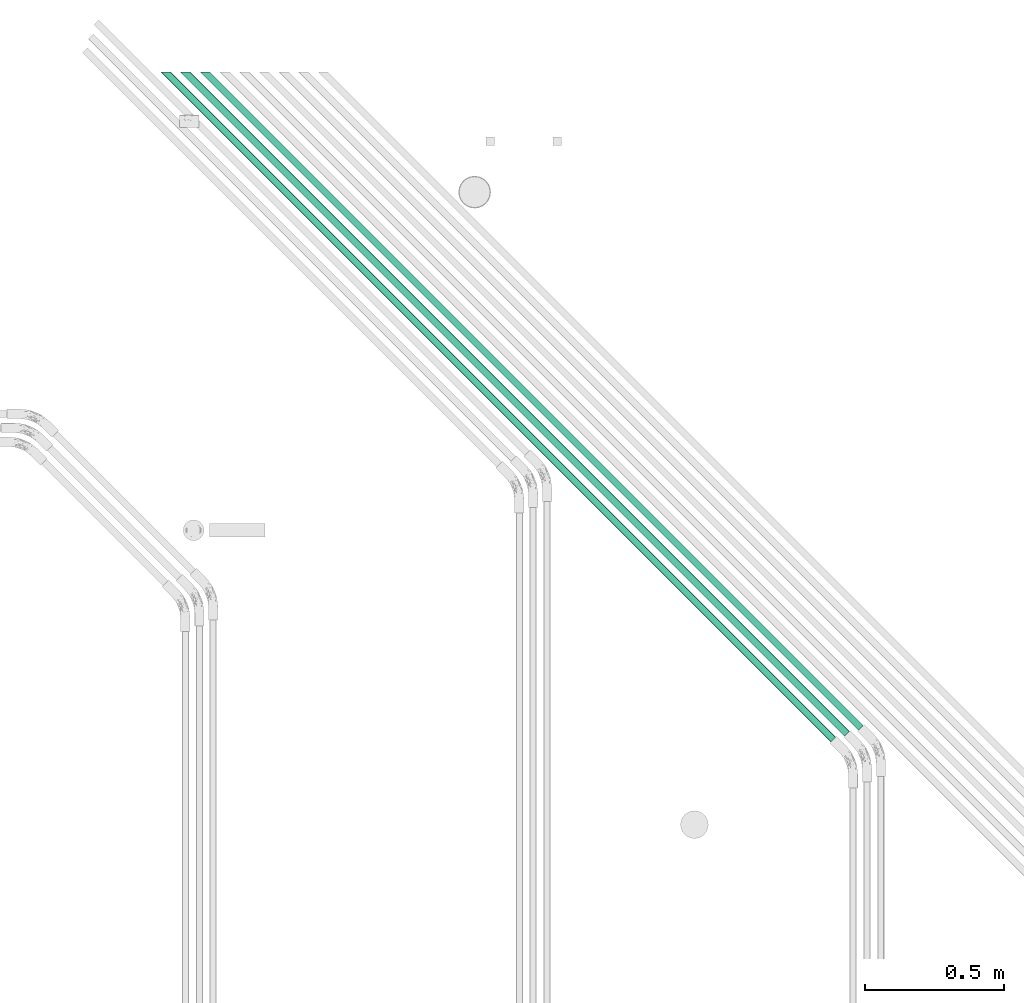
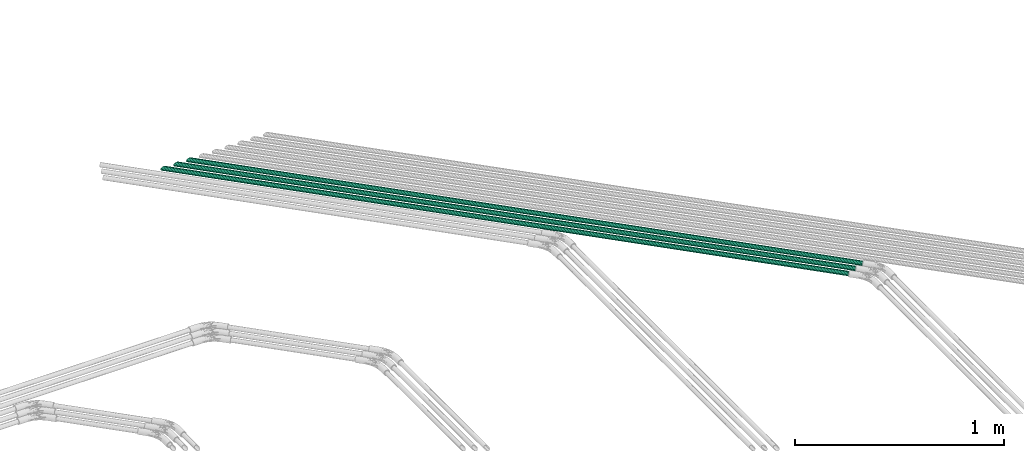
# One storey, part 43 of 51: 3 flow segments.
"""IFC2X3 building model written with IfcOpenShell, lengths in millimetres."""

from ifc_helpers import new_model, entity, si_unit, converted_unit, derived_unit, direction, frame, place, context, subcontext, project, spatial, faceted_brep, type_object, element, save


model = new_model("IFC2X3")

# Units and contexts
model_context = context("Model", 3, precision=0.01, world=frame((0.0, 4.29681676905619e-09, 0.0)), true_north=direction((4.01073788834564e-13, 1.0)))
plan_context = context("Plan", 3, precision=0.01, world=frame((0.0, 4.29681676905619e-09, 0.0)), true_north=direction((4.01073788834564e-13, 1.0)))
body_context = subcontext(model_context, "Body", "Model", "MODEL_VIEW")
ifc_project = project(units=[converted_unit("PLANEANGLEUNIT", "DEGREE", entity("IfcPositiveLengthMeasure", 0.0174532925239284), si_unit("PLANEANGLEUNIT", "RADIAN"), dimensions=[0, 0, 0, 0, 0, 0, 0]), si_unit("AREAUNIT", "SQUARE_METRE"), si_unit("LENGTHUNIT", "METRE", prefix="MILLI"), si_unit("MASSUNIT", "GRAM", prefix="KILO"), si_unit("POWERUNIT", "WATT"), si_unit("PRESSUREUNIT", "PASCAL"), si_unit("FORCEUNIT", "NEWTON", prefix="KILO"), si_unit("ELECTRICVOLTAGEUNIT", "VOLT"), si_unit("ELECTRICCURRENTUNIT", "AMPERE"), si_unit("THERMODYNAMICTEMPERATUREUNIT", "DEGREE_CELSIUS"), si_unit("TIMEUNIT", "SECOND"), si_unit("VOLUMEUNIT", "CUBIC_METRE"), derived_unit("LINEARVELOCITYUNIT", [(si_unit("LENGTHUNIT", "METRE"), 1), (si_unit("TIMEUNIT", "SECOND"), -1)]), derived_unit("VOLUMETRICFLOWRATEUNIT", [(si_unit("VOLUMEUNIT", "CUBIC_METRE"), 1), (si_unit("TIMEUNIT", "SECOND"), -1)]), derived_unit("THERMALTRANSMITTANCEUNIT", [(si_unit("POWERUNIT", "WATT"), 1), (si_unit("THERMODYNAMICTEMPERATUREUNIT", "KELVIN"), -1), (si_unit("AREAUNIT", "SQUARE_METRE"), -1)]), derived_unit("SOUNDPRESSUREUNIT", [(si_unit("PRESSUREUNIT", "PASCAL"), 1)])], contexts=[model_context, plan_context])

# Site, building, storey
site_placement = place(None, frame((0.0, -4.29681676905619e-09, 0.0), z_axis=(0.0, 0.0, 1.0), x_axis=(1.0, 0.0, 0.0)))
site = spatial("IfcSite", under=ifc_project, at=site_placement, Name="ENGM", CompositionType="ELEMENT")
building_placement = place(site_placement, frame((0.0, 4.29681676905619e-09, 0.0), z_axis=(0.0, 0.0, 1.0), x_axis=(1.0, 0.0, 0.0)))
building = spatial("IfcBuilding", under=site, at=building_placement, Name="TI", CompositionType="ELEMENT")
storey_placement = place(building_placement, frame((0.0, 0.0, 210900.0), z_axis=(0.0, 0.0, 1.0), x_axis=(1.0, 0.0, 0.0)))
storey = spatial("IfcBuildingStorey", under=building, at=storey_placement, Name="Nivå F", CompositionType="ELEMENT", Elevation=210900.0)

# Flow segments
cable_carrier_segment_type = type_object("IfcCableCarrierSegmentType", Name="Trekkerør, korrugert", PredefinedType="CONDUITSEGMENT")
flow_segment_1_placement = place(storey_placement, frame((608752.53125, 697117.43931, -56.7999999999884), z_axis=(0.0, 0.0, 1.0), x_axis=(-0.707106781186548, 0.707106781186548, 0.0)))
element("IfcFlowSegment", 1, at=flow_segment_1_placement, inside=storey, type_object=cable_carrier_segment_type, Name="Trekkerør, korrugert", context=body_context, shape_type="Brep", body=[
    faceted_brep([(3345.3014086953, 10.5, 0.0), (3345.14189010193, 10.3404814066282, -1.82330586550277), (0.0, 10.3404814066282, -1.82330586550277), (0.0, 10.5, 0.0), (3344.66818121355, 9.86677251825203, -3.59121150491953), (0.0, 9.86677251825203, -3.59121150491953), (3343.89467543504, 9.0932667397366, -5.25), (0.0, 9.0932667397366, -5.25), (3342.84487534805, 8.04346665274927, -6.74926990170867), (0.0, 8.04346665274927, -6.74926990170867), (3341.55067859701, 6.74926990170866, -8.04346665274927), (0.0, 6.74926990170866, -8.04346665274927), (3340.0514086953, 5.25, -9.09326673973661), (0.0, 5.25, -9.09326673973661), (3338.39262020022, 3.59121150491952, -9.86677251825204), (0.0, 3.59121150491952, -9.86677251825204), (3336.62471456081, 1.82330586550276, -10.3404814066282), (0.0, 1.82330586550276, -10.3404814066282), (3334.8014086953, -1.92881870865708e-15, -10.5), (0.0, -1.92881870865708e-15, -10.5), (3332.9781028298, -1.82330586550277, -10.3404814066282), (0.0, -1.82330586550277, -10.3404814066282), (3331.21019719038, -3.59121150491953, -9.86677251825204), (0.0, -3.59121150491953, -9.86677251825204), (3329.5514086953, -5.25000000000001, -9.0932667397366), (0.0, -5.25, -9.0932667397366), (3328.05213879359, -6.74926990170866, -8.04346665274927), (0.0, -6.74926990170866, -8.04346665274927), (3326.75794204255, -8.04346665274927, -6.74926990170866), (0.0, -8.04346665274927, -6.74926990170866), (3325.70814195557, -9.09326673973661, -5.25), (0.0, -9.09326673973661, -5.25), (3324.93463617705, -9.86677251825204, -3.59121150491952), (0.0, -9.86677251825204, -3.59121150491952), (3324.46092728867, -10.3404814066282, -1.82330586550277), (0.0, -10.3404814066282, -1.82330586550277), (3324.3014086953, -10.5, 1.28587913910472e-15), (0.0, -10.5, 1.28587913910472e-15), (3324.46092728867, -10.3404814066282, 1.82330586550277), (0.0, -10.3404814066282, 1.82330586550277), (3324.93463617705, -9.86677251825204, 3.59121150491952), (0.0, -9.86677251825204, 3.59121150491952), (3325.70814195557, -9.09326673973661, 5.25), (0.0, -9.09326673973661, 5.25), (3326.75794204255, -8.04346665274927, 6.74926990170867), (0.0, -8.04346665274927, 6.74926990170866), (3328.05213879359, -6.74926990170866, 8.04346665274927), (0.0, -6.74926990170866, 8.04346665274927), (3329.5514086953, -5.25, 9.09326673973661), (0.0, -5.25, 9.09326673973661), (3331.21019719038, -3.59121150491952, 9.86677251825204), (0.0, -3.59121150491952, 9.86677251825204), (3332.9781028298, -1.82330586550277, 10.3404814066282), (0.0, -1.82330586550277, 10.3404814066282), (3334.8014086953, 6.4293956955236e-16, 10.5), (0.0, 6.4293956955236e-16, 10.5), (3336.6247145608, 1.82330586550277, 10.3404814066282), (0.0, 1.82330586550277, 10.3404814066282), (3338.39262020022, 3.59121150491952, 9.86677251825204), (0.0, 3.59121150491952, 9.86677251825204), (3340.0514086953, 5.25, 9.09326673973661), (0.0, 5.25, 9.09326673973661), (3341.55067859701, 6.74926990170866, 8.04346665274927), (0.0, 6.74926990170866, 8.04346665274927), (3342.84487534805, 8.04346665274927, 6.74926990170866), (0.0, 8.04346665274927, 6.74926990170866), (3343.89467543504, 9.09326673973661, 5.25), (0.0, 9.09326673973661, 5.25), (3344.66818121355, 9.86677251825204, 3.59121150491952), (0.0, 9.86677251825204, 3.59121150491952), (3345.14189010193, 10.3404814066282, 1.82330586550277), (0.0, 10.3404814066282, 1.82330586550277), (3347.11150560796, 12.3100969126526, -2.17060222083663), (3347.3014086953, 12.5, 0.0), (0.0, 12.5, 0.0), (0.0, 12.3100969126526, -2.17060222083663), (3347.11150560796, 12.3100969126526, 2.17060222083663), (0.0, 12.3100969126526, 2.17060222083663), (3346.54756645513, 11.7461577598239, 4.27525179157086), (0.0, 11.7461577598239, 4.27525179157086), (3345.62672624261, 10.8253175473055, 6.25), (0.0, 10.8253175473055, 6.25), (3344.37696423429, 9.57555553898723, 8.03484512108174), (0.0, 9.57555553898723, 8.03484512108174), (3342.83625381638, 8.03484512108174, 9.57555553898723), (0.0, 8.03484512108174, 9.57555553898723), (3341.0514086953, 6.25, 10.8253175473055), (0.0, 6.25, 10.8253175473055), (3339.07666048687, 4.27525179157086, 11.7461577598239), (0.0, 4.27525179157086, 11.7461577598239), (3336.97201091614, 2.17060222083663, 12.3100969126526), (0.0, 2.17060222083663, 12.3100969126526), (3334.8014086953, 7.65404249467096e-16, 12.5), (0.0, 7.65404249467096e-16, 12.5), (3332.63080647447, -2.17060222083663, 12.3100969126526), (0.0, -2.17060222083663, 12.3100969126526), (3330.52615690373, -4.27525179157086, 11.7461577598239), (0.0, -4.27525179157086, 11.7461577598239), (3328.5514086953, -6.25, 10.8253175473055), (0.0, -6.25, 10.8253175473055), (3326.76656357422, -8.03484512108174, 9.57555553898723), (0.0, -8.03484512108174, 9.57555553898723), (3325.22585315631, -9.57555553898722, 8.03484512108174), (0.0, -9.57555553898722, 8.03484512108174), (3323.976091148, -10.8253175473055, 6.25), (0.0, -10.8253175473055, 6.25), (3323.05525093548, -11.7461577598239, 4.27525179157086), (0.0, -11.7461577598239, 4.27525179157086), (3322.49131178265, -12.3100969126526, 2.17060222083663), (0.0, -12.3100969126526, 2.17060222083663), (3322.3014086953, -12.5, 1.53080849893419e-15), (0.0, -12.5, 1.53080849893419e-15), (3322.49131178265, -12.3100969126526, -2.17060222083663), (0.0, -12.3100969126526, -2.17060222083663), (3323.05525093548, -11.7461577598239, -4.27525179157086), (0.0, -11.7461577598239, -4.27525179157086), (3323.976091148, -10.8253175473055, -6.25), (0.0, -10.8253175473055, -6.25), (3325.22585315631, -9.57555553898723, -8.03484512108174), (0.0, -9.57555553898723, -8.03484512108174), (3326.76656357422, -8.03484512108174, -9.57555553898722), (0.0, -8.03484512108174, -9.57555553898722), (3328.5514086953, -6.25000000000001, -10.8253175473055), (0.0, -6.25000000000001, -10.8253175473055), (3330.52615690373, -4.27525179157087, -11.7461577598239), (0.0, -4.27525179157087, -11.7461577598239), (3332.63080647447, -2.17060222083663, -12.3100969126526), (0.0, -2.17060222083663, -12.3100969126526), (3334.8014086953, -2.29621274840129e-15, -12.5), (0.0, -2.29621274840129e-15, -12.5), (3336.97201091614, 2.17060222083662, -12.3100969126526), (0.0, 2.17060222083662, -12.3100969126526), (3339.07666048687, 4.27525179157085, -11.7461577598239), (0.0, 4.27525179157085, -11.7461577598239), (3341.0514086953, 6.25, -10.8253175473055), (0.0, 6.25, -10.8253175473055), (3342.83625381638, 8.03484512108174, -9.57555553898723), (0.0, 8.03484512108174, -9.57555553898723), (3344.37696423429, 9.57555553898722, -8.03484512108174), (0.0, 9.57555553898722, -8.03484512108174), (3345.62672624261, 10.8253175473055, -6.25000000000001), (0.0, 10.8253175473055, -6.25000000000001), (3346.54756645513, 11.7461577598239, -4.27525179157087), (0.0, 11.7461577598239, -4.27525179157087)], [[[0, 1, 2, 3]], [[1, 4, 5, 2]], [[4, 6, 7, 5]], [[6, 8, 9, 7]], [[8, 10, 11, 9]], [[10, 12, 13, 11]], [[12, 14, 15, 13]], [[14, 16, 17, 15]], [[16, 18, 19, 17]], [[18, 20, 21, 19]], [[20, 22, 23, 21]], [[22, 24, 25, 23]], [[24, 26, 27, 25]], [[26, 28, 29, 27]], [[28, 30, 31, 29]], [[30, 32, 33, 31]], [[32, 34, 35, 33]], [[34, 36, 37, 35]], [[36, 38, 39, 37]], [[38, 40, 41, 39]], [[40, 42, 43, 41]], [[42, 44, 45, 43]], [[44, 46, 47, 45]], [[46, 48, 49, 47]], [[48, 50, 51, 49]], [[50, 52, 53, 51]], [[52, 54, 55, 53]], [[54, 56, 57, 55]], [[56, 58, 59, 57]], [[58, 60, 61, 59]], [[60, 62, 63, 61]], [[62, 64, 65, 63]], [[64, 66, 67, 65]], [[66, 68, 69, 67]], [[68, 70, 71, 69]], [[70, 0, 3, 71]], [[72, 73, 74, 75]], [[73, 76, 77, 74]], [[76, 78, 79, 77]], [[78, 80, 81, 79]], [[80, 82, 83, 81]], [[82, 84, 85, 83]], [[84, 86, 87, 85]], [[86, 88, 89, 87]], [[88, 90, 91, 89]], [[90, 92, 93, 91]], [[92, 94, 95, 93]], [[94, 96, 97, 95]], [[96, 98, 99, 97]], [[98, 100, 101, 99]], [[100, 102, 103, 101]], [[102, 104, 105, 103]], [[104, 106, 107, 105]], [[106, 108, 109, 107]], [[108, 110, 111, 109]], [[110, 112, 113, 111]], [[112, 114, 115, 113]], [[114, 116, 117, 115]], [[116, 118, 119, 117]], [[118, 120, 121, 119]], [[120, 122, 123, 121]], [[122, 124, 125, 123]], [[124, 126, 127, 125]], [[126, 128, 129, 127]], [[128, 130, 131, 129]], [[130, 132, 133, 131]], [[132, 134, 135, 133]], [[134, 136, 137, 135]], [[136, 138, 139, 137]], [[138, 140, 141, 139]], [[140, 142, 143, 141]], [[142, 72, 75, 143]], [[75, 74, 77, 79, 81, 83, 85, 87, 89, 91, 93, 95, 97, 99, 101, 103, 105, 107, 109, 111, 113, 115, 117, 119, 121, 123, 125, 127, 129, 131, 133, 135, 137, 139, 141, 143], [3, 2, 5, 7, 9, 11, 13, 15, 17, 19, 21, 23, 25, 27, 29, 31, 33, 35, 37, 39, 41, 43, 45, 47, 49, 51, 53, 55, 57, 59, 61, 63, 65, 67, 69, 71]], [[142, 140, 138, 136, 134, 132, 130, 128, 126, 124, 122, 120, 118, 116, 114, 112, 110, 108, 106, 104, 102, 100, 98, 96, 94, 92, 90, 88, 86, 84, 82, 80, 78, 76, 73, 72], [70, 68, 66, 64, 62, 60, 58, 56, 54, 52, 50, 48, 46, 44, 42, 40, 38, 36, 34, 32, 30, 28, 26, 24, 22, 20, 18, 16, 14, 12, 10, 8, 6, 4, 1, 0]]], orient=[[False], [False], [False], [False], [False], [False], [False], [False], [False], [False], [False], [False], [False], [False], [False], [False], [False], [False], [False], [False], [False], [False], [False], [False], [False], [False], [False], [False], [False], [False], [False], [False], [False], [False], [False], [False], [False], [False], [False], [False], [False], [False], [False], [False], [False], [False], [False], [False], [False], [False], [False], [False], [False], [False], [False], [False], [False], [False], [False], [False], [False], [False], [False], [False], [False], [False], [False], [False], [False], [False], [False], [False], [False, False], [False, False]]),
])
flow_segment_2_placement = place(storey_placement, frame((608702.53125, 697096.72864, -56.7999999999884), z_axis=(0.0, 0.0, 1.0), x_axis=(-0.707106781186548, 0.707106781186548, 0.0)))
element("IfcFlowSegment", 2, at=flow_segment_2_placement, inside=storey, type_object=cable_carrier_segment_type, Name="Trekkerør, korrugert", context=body_context, shape_type="Brep", body=[
    faceted_brep([(3374.59071909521, 10.5, 0.0), (3374.43120050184, 10.3404814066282, -1.82330586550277), (0.0, 10.3404814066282, -1.82330586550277), (0.0, 10.5, 0.0), (3373.95749161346, 9.86677251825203, -3.59121150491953), (0.0, 9.86677251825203, -3.59121150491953), (3373.18398583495, 9.0932667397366, -5.25), (0.0, 9.0932667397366, -5.25), (3372.13418574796, 8.04346665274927, -6.74926990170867), (0.0, 8.04346665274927, -6.74926990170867), (3370.83998899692, 6.74926990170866, -8.04346665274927), (0.0, 6.74926990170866, -8.04346665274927), (3369.34071909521, 5.25, -9.09326673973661), (0.0, 5.25, -9.09326673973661), (3367.68193060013, 3.59121150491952, -9.86677251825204), (0.0, 3.59121150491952, -9.86677251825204), (3365.91402496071, 1.82330586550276, -10.3404814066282), (0.0, 1.82330586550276, -10.3404814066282), (3364.09071909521, -1.92881870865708e-15, -10.5), (0.0, -1.92881870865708e-15, -10.5), (3362.26741322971, -1.82330586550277, -10.3404814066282), (0.0, -1.82330586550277, -10.3404814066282), (3360.49950759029, -3.59121150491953, -9.86677251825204), (0.0, -3.59121150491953, -9.86677251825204), (3358.84071909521, -5.25, -9.0932667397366), (0.0, -5.25, -9.0932667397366), (3357.3414491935, -6.74926990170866, -8.04346665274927), (0.0, -6.74926990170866, -8.04346665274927), (3356.04725244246, -8.04346665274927, -6.74926990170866), (0.0, -8.04346665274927, -6.74926990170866), (3354.99745235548, -9.09326673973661, -5.25), (0.0, -9.09326673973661, -5.25), (3354.22394657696, -9.86677251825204, -3.59121150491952), (0.0, -9.86677251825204, -3.59121150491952), (3353.75023768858, -10.3404814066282, -1.82330586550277), (0.0, -10.3404814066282, -1.82330586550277), (3353.59071909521, -10.5, 1.28587913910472e-15), (0.0, -10.5, 1.28587913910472e-15), (3353.75023768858, -10.3404814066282, 1.82330586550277), (0.0, -10.3404814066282, 1.82330586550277), (3354.22394657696, -9.86677251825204, 3.59121150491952), (0.0, -9.86677251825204, 3.59121150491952), (3354.99745235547, -9.09326673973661, 5.25), (0.0, -9.09326673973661, 5.25), (3356.04725244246, -8.04346665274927, 6.74926990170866), (0.0, -8.04346665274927, 6.74926990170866), (3357.3414491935, -6.74926990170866, 8.04346665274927), (0.0, -6.74926990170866, 8.04346665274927), (3358.84071909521, -5.25, 9.09326673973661), (0.0, -5.25, 9.09326673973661), (3360.49950759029, -3.59121150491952, 9.86677251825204), (0.0, -3.59121150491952, 9.86677251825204), (3362.26741322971, -1.82330586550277, 10.3404814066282), (0.0, -1.82330586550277, 10.3404814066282), (3364.09071909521, 6.4293956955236e-16, 10.5), (0.0, 6.4293956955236e-16, 10.5), (3365.91402496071, 1.82330586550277, 10.3404814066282), (0.0, 1.82330586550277, 10.3404814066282), (3367.68193060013, 3.59121150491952, 9.86677251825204), (0.0, 3.59121150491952, 9.86677251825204), (3369.34071909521, 5.25, 9.09326673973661), (0.0, 5.25, 9.09326673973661), (3370.83998899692, 6.74926990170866, 8.04346665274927), (0.0, 6.74926990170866, 8.04346665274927), (3372.13418574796, 8.04346665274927, 6.74926990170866), (0.0, 8.04346665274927, 6.74926990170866), (3373.18398583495, 9.09326673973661, 5.25), (0.0, 9.09326673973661, 5.25), (3373.95749161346, 9.86677251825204, 3.59121150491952), (0.0, 9.86677251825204, 3.59121150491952), (3374.43120050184, 10.3404814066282, 1.82330586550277), (0.0, 10.3404814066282, 1.82330586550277), (3376.40081600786, 12.3100969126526, -2.17060222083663), (3376.59071909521, 12.5, 0.0), (0.0, 12.5, 0.0), (0.0, 12.3100969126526, -2.17060222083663), (3376.40081600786, 12.3100969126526, 2.17060222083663), (0.0, 12.3100969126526, 2.17060222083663), (3375.83687685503, 11.7461577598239, 4.27525179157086), (0.0, 11.7461577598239, 4.27525179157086), (3374.91603664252, 10.8253175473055, 6.25), (0.0, 10.8253175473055, 6.25), (3373.6662746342, 9.57555553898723, 8.03484512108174), (0.0, 9.57555553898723, 8.03484512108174), (3372.12556421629, 8.03484512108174, 9.57555553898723), (0.0, 8.03484512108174, 9.57555553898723), (3370.34071909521, 6.25, 10.8253175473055), (0.0, 6.25, 10.8253175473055), (3368.36597088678, 4.27525179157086, 11.7461577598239), (0.0, 4.27525179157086, 11.7461577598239), (3366.26132131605, 2.17060222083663, 12.3100969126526), (0.0, 2.17060222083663, 12.3100969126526), (3364.09071909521, 7.65404249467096e-16, 12.5), (0.0, 7.65404249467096e-16, 12.5), (3361.92011687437, -2.17060222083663, 12.3100969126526), (0.0, -2.17060222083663, 12.3100969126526), (3359.81546730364, -4.27525179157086, 11.7461577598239), (0.0, -4.27525179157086, 11.7461577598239), (3357.84071909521, -6.25, 10.8253175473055), (0.0, -6.25, 10.8253175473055), (3356.05587397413, -8.03484512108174, 9.57555553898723), (0.0, -8.03484512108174, 9.57555553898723), (3354.51516355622, -9.57555553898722, 8.03484512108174), (0.0, -9.57555553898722, 8.03484512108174), (3353.26540154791, -10.8253175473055, 6.25), (0.0, -10.8253175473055, 6.25), (3352.34456133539, -11.7461577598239, 4.27525179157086), (0.0, -11.7461577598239, 4.27525179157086), (3351.78062218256, -12.3100969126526, 2.17060222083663), (0.0, -12.3100969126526, 2.17060222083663), (3351.59071909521, -12.5, 1.53080849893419e-15), (0.0, -12.5, 1.53080849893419e-15), (3351.78062218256, -12.3100969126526, -2.17060222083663), (0.0, -12.3100969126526, -2.17060222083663), (3352.34456133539, -11.7461577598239, -4.27525179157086), (0.0, -11.7461577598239, -4.27525179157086), (3353.26540154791, -10.8253175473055, -6.25), (0.0, -10.8253175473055, -6.25), (3354.51516355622, -9.57555553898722, -8.03484512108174), (0.0, -9.57555553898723, -8.03484512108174), (3356.05587397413, -8.03484512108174, -9.57555553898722), (0.0, -8.03484512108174, -9.57555553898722), (3357.84071909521, -6.25000000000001, -10.8253175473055), (0.0, -6.25000000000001, -10.8253175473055), (3359.81546730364, -4.27525179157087, -11.7461577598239), (0.0, -4.27525179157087, -11.7461577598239), (3361.92011687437, -2.17060222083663, -12.3100969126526), (0.0, -2.17060222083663, -12.3100969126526), (3364.09071909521, -2.29621274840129e-15, -12.5), (0.0, -2.29621274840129e-15, -12.5), (3366.26132131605, 2.17060222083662, -12.3100969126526), (0.0, 2.17060222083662, -12.3100969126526), (3368.36597088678, 4.27525179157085, -11.7461577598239), (0.0, 4.27525179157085, -11.7461577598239), (3370.34071909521, 6.25, -10.8253175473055), (0.0, 6.25, -10.8253175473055), (3372.12556421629, 8.03484512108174, -9.57555553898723), (0.0, 8.03484512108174, -9.57555553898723), (3373.6662746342, 9.57555553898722, -8.03484512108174), (0.0, 9.57555553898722, -8.03484512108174), (3374.91603664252, 10.8253175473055, -6.25000000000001), (0.0, 10.8253175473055, -6.25000000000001), (3375.83687685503, 11.7461577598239, -4.27525179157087), (0.0, 11.7461577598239, -4.27525179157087)], [[[0, 1, 2, 3]], [[1, 4, 5, 2]], [[4, 6, 7, 5]], [[6, 8, 9, 7]], [[8, 10, 11, 9]], [[10, 12, 13, 11]], [[12, 14, 15, 13]], [[14, 16, 17, 15]], [[16, 18, 19, 17]], [[18, 20, 21, 19]], [[20, 22, 23, 21]], [[22, 24, 25, 23]], [[24, 26, 27, 25]], [[26, 28, 29, 27]], [[28, 30, 31, 29]], [[30, 32, 33, 31]], [[32, 34, 35, 33]], [[34, 36, 37, 35]], [[36, 38, 39, 37]], [[38, 40, 41, 39]], [[40, 42, 43, 41]], [[42, 44, 45, 43]], [[44, 46, 47, 45]], [[46, 48, 49, 47]], [[48, 50, 51, 49]], [[50, 52, 53, 51]], [[52, 54, 55, 53]], [[54, 56, 57, 55]], [[56, 58, 59, 57]], [[58, 60, 61, 59]], [[60, 62, 63, 61]], [[62, 64, 65, 63]], [[64, 66, 67, 65]], [[66, 68, 69, 67]], [[68, 70, 71, 69]], [[70, 0, 3, 71]], [[72, 73, 74, 75]], [[73, 76, 77, 74]], [[76, 78, 79, 77]], [[78, 80, 81, 79]], [[80, 82, 83, 81]], [[82, 84, 85, 83]], [[84, 86, 87, 85]], [[86, 88, 89, 87]], [[88, 90, 91, 89]], [[90, 92, 93, 91]], [[92, 94, 95, 93]], [[94, 96, 97, 95]], [[96, 98, 99, 97]], [[98, 100, 101, 99]], [[100, 102, 103, 101]], [[102, 104, 105, 103]], [[104, 106, 107, 105]], [[106, 108, 109, 107]], [[108, 110, 111, 109]], [[110, 112, 113, 111]], [[112, 114, 115, 113]], [[114, 116, 117, 115]], [[116, 118, 119, 117]], [[118, 120, 121, 119]], [[120, 122, 123, 121]], [[122, 124, 125, 123]], [[124, 126, 127, 125]], [[126, 128, 129, 127]], [[128, 130, 131, 129]], [[130, 132, 133, 131]], [[132, 134, 135, 133]], [[134, 136, 137, 135]], [[136, 138, 139, 137]], [[138, 140, 141, 139]], [[140, 142, 143, 141]], [[142, 72, 75, 143]], [[75, 74, 77, 79, 81, 83, 85, 87, 89, 91, 93, 95, 97, 99, 101, 103, 105, 107, 109, 111, 113, 115, 117, 119, 121, 123, 125, 127, 129, 131, 133, 135, 137, 139, 141, 143], [3, 2, 5, 7, 9, 11, 13, 15, 17, 19, 21, 23, 25, 27, 29, 31, 33, 35, 37, 39, 41, 43, 45, 47, 49, 51, 53, 55, 57, 59, 61, 63, 65, 67, 69, 71]], [[142, 140, 138, 136, 134, 132, 130, 128, 126, 124, 122, 120, 118, 116, 114, 112, 110, 108, 106, 104, 102, 100, 98, 96, 94, 92, 90, 88, 86, 84, 82, 80, 78, 76, 73, 72], [70, 68, 66, 64, 62, 60, 58, 56, 54, 52, 50, 48, 46, 44, 42, 40, 38, 36, 34, 32, 30, 28, 26, 24, 22, 20, 18, 16, 14, 12, 10, 8, 6, 4, 1, 0]]], orient=[[False], [False], [False], [False], [False], [False], [False], [False], [False], [False], [False], [False], [False], [False], [False], [False], [False], [False], [False], [False], [False], [False], [False], [False], [False], [False], [False], [False], [False], [False], [False], [False], [False], [False], [False], [False], [False], [False], [False], [False], [False], [False], [False], [False], [False], [False], [False], [False], [False], [False], [False], [False], [False], [False], [False], [False], [False], [False], [False], [False], [False], [False], [False], [False], [False], [False], [False], [False], [False], [False], [False], [False], [False, False], [False, False]]),
])
flow_segment_3_placement = place(storey_placement, frame((608652.53125, 697076.01796, -56.7999999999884), z_axis=(0.0, 0.0, 1.0), x_axis=(-0.707106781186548, 0.707106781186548, 0.0)))
element("IfcFlowSegment", 3, at=flow_segment_3_placement, inside=storey, type_object=cable_carrier_segment_type, Name="Trekkerør, korrugert", context=body_context, shape_type="Brep", body=[
    faceted_brep([(3403.88004363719, 10.5, 0.0), (3403.72052504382, 10.3404814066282, -1.82330586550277), (0.0, 10.3404814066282, -1.82330586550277), (0.0, 10.5, 0.0), (3403.24681615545, 9.86677251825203, -3.59121150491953), (0.0, 9.86677251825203, -3.59121150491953), (3402.47331037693, 9.0932667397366, -5.25), (0.0, 9.0932667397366, -5.25), (3401.42351028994, 8.04346665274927, -6.74926990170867), (0.0, 8.04346665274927, -6.74926990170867), (3400.1293135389, 6.74926990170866, -8.04346665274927), (0.0, 6.74926990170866, -8.04346665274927), (3398.63004363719, 5.25, -9.09326673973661), (0.0, 5.25, -9.09326673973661), (3396.97125514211, 3.59121150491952, -9.86677251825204), (0.0, 3.59121150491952, -9.86677251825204), (3395.2033495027, 1.82330586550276, -10.3404814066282), (0.0, 1.82330586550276, -10.3404814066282), (3393.38004363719, -1.92881870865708e-15, -10.5), (0.0, -1.92881870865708e-15, -10.5), (3391.55673777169, -1.82330586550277, -10.3404814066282), (0.0, -1.82330586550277, -10.3404814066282), (3389.78883213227, -3.59121150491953, -9.86677251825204), (0.0, -3.59121150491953, -9.86677251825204), (3388.13004363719, -5.25, -9.0932667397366), (0.0, -5.25, -9.0932667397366), (3386.63077373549, -6.74926990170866, -8.04346665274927), (0.0, -6.74926990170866, -8.04346665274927), (3385.33657698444, -8.04346665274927, -6.74926990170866), (0.0, -8.04346665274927, -6.74926990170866), (3384.28677689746, -9.09326673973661, -5.25), (0.0, -9.09326673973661, -5.25), (3383.51327111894, -9.86677251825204, -3.59121150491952), (0.0, -9.86677251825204, -3.59121150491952), (3383.03956223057, -10.3404814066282, -1.82330586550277), (0.0, -10.3404814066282, -1.82330586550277), (3382.88004363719, -10.5, 1.28587913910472e-15), (0.0, -10.5, 1.28587913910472e-15), (3383.03956223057, -10.3404814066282, 1.82330586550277), (0.0, -10.3404814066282, 1.82330586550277), (3383.51327111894, -9.86677251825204, 3.59121150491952), (0.0, -9.86677251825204, 3.59121150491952), (3384.28677689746, -9.09326673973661, 5.25), (0.0, -9.09326673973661, 5.25), (3385.33657698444, -8.04346665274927, 6.74926990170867), (0.0, -8.04346665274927, 6.74926990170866), (3386.63077373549, -6.74926990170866, 8.04346665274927), (0.0, -6.74926990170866, 8.04346665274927), (3388.13004363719, -5.25, 9.09326673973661), (0.0, -5.25, 9.09326673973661), (3389.78883213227, -3.59121150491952, 9.86677251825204), (0.0, -3.59121150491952, 9.86677251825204), (3391.55673777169, -1.82330586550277, 10.3404814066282), (0.0, -1.82330586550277, 10.3404814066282), (3393.38004363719, 6.4293956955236e-16, 10.5), (0.0, 6.4293956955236e-16, 10.5), (3395.2033495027, 1.82330586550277, 10.3404814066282), (0.0, 1.82330586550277, 10.3404814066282), (3396.97125514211, 3.59121150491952, 9.86677251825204), (0.0, 3.59121150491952, 9.86677251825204), (3398.63004363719, 5.25, 9.09326673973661), (0.0, 5.25, 9.09326673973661), (3400.1293135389, 6.74926990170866, 8.04346665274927), (0.0, 6.74926990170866, 8.04346665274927), (3401.42351028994, 8.04346665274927, 6.74926990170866), (0.0, 8.04346665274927, 6.74926990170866), (3402.47331037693, 9.09326673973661, 5.25), (0.0, 9.09326673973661, 5.25), (3403.24681615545, 9.86677251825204, 3.59121150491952), (0.0, 9.86677251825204, 3.59121150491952), (3403.72052504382, 10.3404814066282, 1.82330586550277), (0.0, 10.3404814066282, 1.82330586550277), (3405.69014054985, 12.3100969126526, -2.17060222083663), (3405.88004363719, 12.5, 0.0), (0.0, 12.5, 0.0), (0.0, 12.3100969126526, -2.17060222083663), (3405.69014054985, 12.3100969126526, 2.17060222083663), (0.0, 12.3100969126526, 2.17060222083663), (3405.12620139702, 11.7461577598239, 4.27525179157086), (0.0, 11.7461577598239, 4.27525179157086), (3404.2053611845, 10.8253175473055, 6.25), (0.0, 10.8253175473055, 6.25), (3402.95559917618, 9.57555553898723, 8.03484512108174), (0.0, 9.57555553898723, 8.03484512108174), (3401.41488875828, 8.03484512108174, 9.57555553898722), (0.0, 8.03484512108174, 9.57555553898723), (3399.63004363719, 6.25, 10.8253175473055), (0.0, 6.25, 10.8253175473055), (3397.65529542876, 4.27525179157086, 11.7461577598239), (0.0, 4.27525179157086, 11.7461577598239), (3395.55064585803, 2.17060222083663, 12.3100969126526), (0.0, 2.17060222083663, 12.3100969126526), (3393.38004363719, 7.65404249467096e-16, 12.5), (0.0, 7.65404249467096e-16, 12.5), (3391.20944141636, -2.17060222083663, 12.3100969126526), (0.0, -2.17060222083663, 12.3100969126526), (3389.10479184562, -4.27525179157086, 11.7461577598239), (0.0, -4.27525179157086, 11.7461577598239), (3387.13004363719, -6.25, 10.8253175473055), (0.0, -6.25, 10.8253175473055), (3385.34519851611, -8.03484512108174, 9.57555553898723), (0.0, -8.03484512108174, 9.57555553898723), (3383.80448809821, -9.57555553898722, 8.03484512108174), (0.0, -9.57555553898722, 8.03484512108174), (3382.55472608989, -10.8253175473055, 6.25), (0.0, -10.8253175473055, 6.25), (3381.63388587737, -11.7461577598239, 4.27525179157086), (0.0, -11.7461577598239, 4.27525179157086), (3381.06994672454, -12.3100969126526, 2.17060222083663), (0.0, -12.3100969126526, 2.17060222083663), (3380.88004363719, -12.5, 1.53080849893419e-15), (0.0, -12.5, 1.53080849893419e-15), (3381.06994672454, -12.3100969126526, -2.17060222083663), (0.0, -12.3100969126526, -2.17060222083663), (3381.63388587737, -11.7461577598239, -4.27525179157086), (0.0, -11.7461577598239, -4.27525179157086), (3382.55472608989, -10.8253175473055, -6.25), (0.0, -10.8253175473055, -6.25), (3383.80448809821, -9.57555553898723, -8.03484512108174), (0.0, -9.57555553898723, -8.03484512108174), (3385.34519851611, -8.03484512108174, -9.57555553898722), (0.0, -8.03484512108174, -9.57555553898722), (3387.13004363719, -6.25000000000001, -10.8253175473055), (0.0, -6.25000000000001, -10.8253175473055), (3389.10479184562, -4.27525179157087, -11.7461577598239), (0.0, -4.27525179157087, -11.7461577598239), (3391.20944141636, -2.17060222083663, -12.3100969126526), (0.0, -2.17060222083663, -12.3100969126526), (3393.38004363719, -2.29621274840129e-15, -12.5), (0.0, -2.29621274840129e-15, -12.5), (3395.55064585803, 2.17060222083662, -12.3100969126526), (0.0, 2.17060222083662, -12.3100969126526), (3397.65529542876, 4.27525179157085, -11.7461577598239), (0.0, 4.27525179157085, -11.7461577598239), (3399.63004363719, 6.25, -10.8253175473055), (0.0, 6.25, -10.8253175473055), (3401.41488875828, 8.03484512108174, -9.57555553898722), (0.0, 8.03484512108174, -9.57555553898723), (3402.95559917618, 9.57555553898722, -8.03484512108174), (0.0, 9.57555553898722, -8.03484512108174), (3404.2053611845, 10.8253175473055, -6.25000000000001), (0.0, 10.8253175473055, -6.25000000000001), (3405.12620139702, 11.7461577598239, -4.27525179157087), (0.0, 11.7461577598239, -4.27525179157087)], [[[0, 1, 2, 3]], [[1, 4, 5, 2]], [[4, 6, 7, 5]], [[6, 8, 9, 7]], [[8, 10, 11, 9]], [[10, 12, 13, 11]], [[12, 14, 15, 13]], [[14, 16, 17, 15]], [[16, 18, 19, 17]], [[18, 20, 21, 19]], [[20, 22, 23, 21]], [[22, 24, 25, 23]], [[24, 26, 27, 25]], [[26, 28, 29, 27]], [[28, 30, 31, 29]], [[30, 32, 33, 31]], [[32, 34, 35, 33]], [[34, 36, 37, 35]], [[36, 38, 39, 37]], [[38, 40, 41, 39]], [[40, 42, 43, 41]], [[42, 44, 45, 43]], [[44, 46, 47, 45]], [[46, 48, 49, 47]], [[48, 50, 51, 49]], [[50, 52, 53, 51]], [[52, 54, 55, 53]], [[54, 56, 57, 55]], [[56, 58, 59, 57]], [[58, 60, 61, 59]], [[60, 62, 63, 61]], [[62, 64, 65, 63]], [[64, 66, 67, 65]], [[66, 68, 69, 67]], [[68, 70, 71, 69]], [[70, 0, 3, 71]], [[72, 73, 74, 75]], [[73, 76, 77, 74]], [[76, 78, 79, 77]], [[78, 80, 81, 79]], [[80, 82, 83, 81]], [[82, 84, 85, 83]], [[84, 86, 87, 85]], [[86, 88, 89, 87]], [[88, 90, 91, 89]], [[90, 92, 93, 91]], [[92, 94, 95, 93]], [[94, 96, 97, 95]], [[96, 98, 99, 97]], [[98, 100, 101, 99]], [[100, 102, 103, 101]], [[102, 104, 105, 103]], [[104, 106, 107, 105]], [[106, 108, 109, 107]], [[108, 110, 111, 109]], [[110, 112, 113, 111]], [[112, 114, 115, 113]], [[114, 116, 117, 115]], [[116, 118, 119, 117]], [[118, 120, 121, 119]], [[120, 122, 123, 121]], [[122, 124, 125, 123]], [[124, 126, 127, 125]], [[126, 128, 129, 127]], [[128, 130, 131, 129]], [[130, 132, 133, 131]], [[132, 134, 135, 133]], [[134, 136, 137, 135]], [[136, 138, 139, 137]], [[138, 140, 141, 139]], [[140, 142, 143, 141]], [[142, 72, 75, 143]], [[75, 74, 77, 79, 81, 83, 85, 87, 89, 91, 93, 95, 97, 99, 101, 103, 105, 107, 109, 111, 113, 115, 117, 119, 121, 123, 125, 127, 129, 131, 133, 135, 137, 139, 141, 143], [3, 2, 5, 7, 9, 11, 13, 15, 17, 19, 21, 23, 25, 27, 29, 31, 33, 35, 37, 39, 41, 43, 45, 47, 49, 51, 53, 55, 57, 59, 61, 63, 65, 67, 69, 71]], [[142, 140, 138, 136, 134, 132, 130, 128, 126, 124, 122, 120, 118, 116, 114, 112, 110, 108, 106, 104, 102, 100, 98, 96, 94, 92, 90, 88, 86, 84, 82, 80, 78, 76, 73, 72], [70, 68, 66, 64, 62, 60, 58, 56, 54, 52, 50, 48, 46, 44, 42, 40, 38, 36, 34, 32, 30, 28, 26, 24, 22, 20, 18, 16, 14, 12, 10, 8, 6, 4, 1, 0]]], orient=[[False], [False], [False], [False], [False], [False], [False], [False], [False], [False], [False], [False], [False], [False], [False], [False], [False], [False], [False], [False], [False], [False], [False], [False], [False], [False], [False], [False], [False], [False], [False], [False], [False], [False], [False], [False], [False], [False], [False], [False], [False], [False], [False], [False], [False], [False], [False], [False], [False], [False], [False], [False], [False], [False], [False], [False], [False], [False], [False], [False], [False], [False], [False], [False], [False], [False], [False], [False], [False], [False], [False], [False], [False, False], [False, False]]),
])

save(model, "model.ifc")
